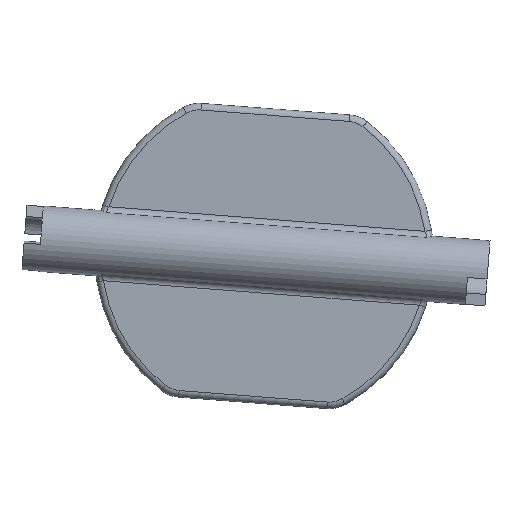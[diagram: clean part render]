
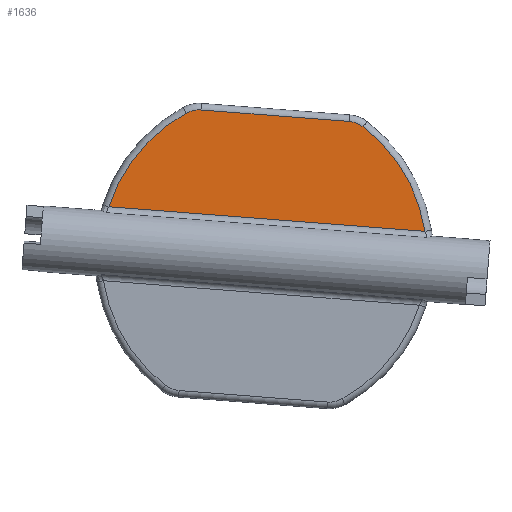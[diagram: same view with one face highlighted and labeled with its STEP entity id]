
A CAD part, front view. The second image highlights one B-rep face of the part: STEP entity #1636.
In plain terms, the highlighted planar face has unit normal (0, -1, 0).
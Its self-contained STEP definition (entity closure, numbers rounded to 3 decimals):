
#1=DIRECTION('',(-0.997,0.,0.077));
#2=VECTOR('',#1,48.354);
#3=CARTESIAN_POINT('',(257.567,-1.,173.418));
#4=LINE('',#3,#2);
#5=CARTESIAN_POINT('',(233.025,-1.,169.647));
#6=DIRECTION('',(0.,-1.,0.));
#7=DIRECTION('',(-0.478,0.,0.878));
#8=AXIS2_PLACEMENT_3D('',#5,#6,#7);
#10=CARTESIAN_POINT('',(223.069,-1.,187.943));
#11=DIRECTION('',(0.,-1.,0.));
#12=DIRECTION('',(0.077,0.,0.997));
#13=AXIS2_PLACEMENT_3D('',#10,#11,#12);
#15=DIRECTION('',(-0.997,0.,0.077));
#16=VECTOR('',#15,22.682);
#17=CARTESIAN_POINT('',(245.992,-1.,190.178));
#18=LINE('',#17,#16);
#19=CARTESIAN_POINT('',(245.683,-1.,186.19));
#20=DIRECTION('',(0.,-1.,0.));
#21=DIRECTION('',(0.608,0.,0.794));
#22=AXIS2_PLACEMENT_3D('',#19,#20,#21);
#24=CARTESIAN_POINT('',(233.025,-1.,169.647));
#25=DIRECTION('',(0.,-1.,0.));
#26=DIRECTION('',(0.988,0.,0.152));
#27=AXIS2_PLACEMENT_3D('',#24,#25,#26);
#57=CARTESIAN_POINT('',(209.358,-1.,177.156));
#81=CARTESIAN_POINT('',(257.567,-1.,173.418));
#1410=VERTEX_POINT('',#57);
#1413=VERTEX_POINT('',#81);
#1609=CARTESIAN_POINT('',(248.113,-1.,189.367));
#1610=VERTEX_POINT('',#1609);
#1611=CARTESIAN_POINT('',(245.992,-1.,190.178));
#1612=VERTEX_POINT('',#1611);
#1613=CARTESIAN_POINT('',(223.378,-1.,191.931));
#1614=VERTEX_POINT('',#1613);
#1615=CARTESIAN_POINT('',(221.157,-1.,191.457));
#1616=VERTEX_POINT('',#1615);
#1617=CARTESIAN_POINT('',(0.,-1.,0.));
#1618=DIRECTION('',(0.,1.,0.));
#1619=DIRECTION('',(1.,0.,0.));
#1620=AXIS2_PLACEMENT_3D('',#1617,#1618,#1619);
#1621=PLANE('',#1620);
#1623=ORIENTED_EDGE('',*,*,#1622,.T.);
#1625=ORIENTED_EDGE('',*,*,#1624,.F.);
#1627=ORIENTED_EDGE('',*,*,#1626,.F.);
#1629=ORIENTED_EDGE('',*,*,#1628,.F.);
#1631=ORIENTED_EDGE('',*,*,#1630,.F.);
#1633=ORIENTED_EDGE('',*,*,#1632,.F.);
#1634=EDGE_LOOP('',(#1623,#1625,#1627,#1629,#1631,#1633));
#1635=FACE_OUTER_BOUND('',#1634,.F.);
#1636=ADVANCED_FACE('',(#1635),#1621,.F.);
#9=CIRCLE('',#8,24.83);
#14=CIRCLE('',#13,4.);
#23=CIRCLE('',#22,4.);
#28=CIRCLE('',#27,24.83);
#1622=EDGE_CURVE('',#1413,#1410,#4,.T.);
#1624=EDGE_CURVE('',#1616,#1410,#9,.T.);
#1626=EDGE_CURVE('',#1614,#1616,#14,.T.);
#1628=EDGE_CURVE('',#1612,#1614,#18,.T.);
#1630=EDGE_CURVE('',#1610,#1612,#23,.T.);
#1632=EDGE_CURVE('',#1413,#1610,#28,.T.);
